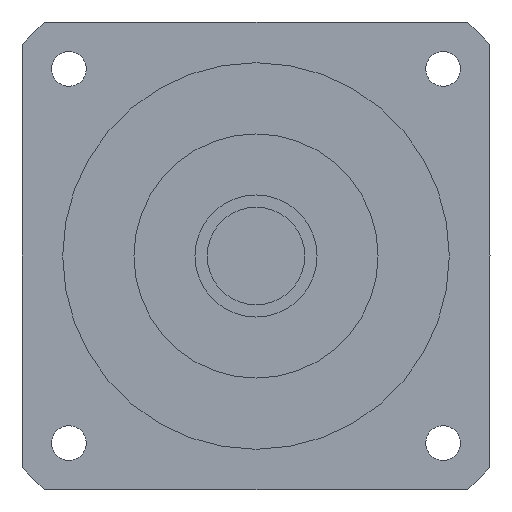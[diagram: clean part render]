
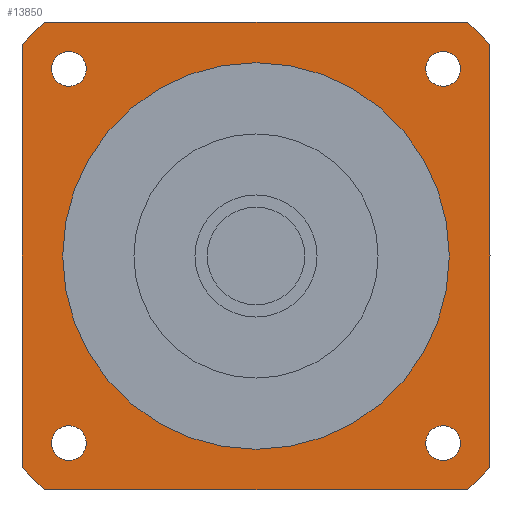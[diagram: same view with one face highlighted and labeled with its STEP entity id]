
A CAD part, left-side view. The second image highlights one B-rep face of the part: STEP entity #13850.
In plain terms, the highlighted planar face has unit normal (-1, 0, 0) as drawn and (0, 0, -1) by its records, which use the part's own axes.
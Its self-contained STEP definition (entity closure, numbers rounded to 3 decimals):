
#11040=CARTESIAN_POINT('',(-51.962,57.5,-65.6));
#11050=VERTEX_POINT('',#11040);
#11080=CARTESIAN_POINT('',(-57.5,57.5,-65.6));
#11090=DIRECTION('',(1.,0.,0.));
#11100=VECTOR('',#11090,1000.);
#11110=LINE('',#11080,#11100);
#11120=CARTESIAN_POINT('',(51.962,57.5,-65.6));
#11130=VERTEX_POINT('',#11120);
#11140=EDGE_CURVE('',#11050,#11130,#11110,.T.);
#11370=CARTESIAN_POINT('',(-57.5,51.962,-65.6));
#11380=VERTEX_POINT('',#11370);
#11410=CARTESIAN_POINT('',(0.,0.,
-65.6));
#11420=DIRECTION('',(0.,0.,-1.));
#11430=DIRECTION('',(1.,0.,0.));
#11440=AXIS2_PLACEMENT_3D('',#11410,#11420,#11430);
#11450=CIRCLE('',#11440,77.5);
#11460=EDGE_CURVE('',#11380,#11050,#11450,.T.);
#11600=CARTESIAN_POINT('',(-51.962,-57.5,-65.6));
#11610=VERTEX_POINT('',#11600);
#11640=CARTESIAN_POINT('',(0.,0.,
-65.6));
#11650=DIRECTION('',(0.,0.,-1.));
#11660=DIRECTION('',(1.,0.,0.));
#11670=AXIS2_PLACEMENT_3D('',#11640,#11650,#11660);
#11680=CIRCLE('',#11670,77.5);
#11690=CARTESIAN_POINT('',(-57.5,-51.962,-65.6));
#11700=VERTEX_POINT('',#11690);
#11710=EDGE_CURVE('',#11610,#11700,#11680,.T.);
#11920=CARTESIAN_POINT('',(51.962,-57.5,-65.6));
#11930=VERTEX_POINT('',#11920);
#11960=CARTESIAN_POINT('',(57.5,-57.5,-65.6));
#11970=DIRECTION('',(-1.,0.,0.));
#11980=VECTOR('',#11970,1000.);
#11990=LINE('',#11960,#11980);
#12000=EDGE_CURVE('',#11930,#11610,#11990,.T.);
#12130=CARTESIAN_POINT('',(-57.5,-57.5,-65.6));
#12140=DIRECTION('',(0.,1.,0.));
#12150=VECTOR('',#12140,1000.);
#12160=LINE('',#12130,#12150);
#12170=EDGE_CURVE('',#11700,#11380,#12160,.T.);
#12300=CARTESIAN_POINT('',(0.,0.,
-65.6));
#12310=DIRECTION('',(0.,0.,-1.));
#12320=DIRECTION('',(1.,0.,0.));
#12330=AXIS2_PLACEMENT_3D('',#12300,#12310,#12320);
#12340=CIRCLE('',#12330,77.5);
#12350=CARTESIAN_POINT('',(57.5,51.962,-65.6));
#12360=VERTEX_POINT('',#12350);
#12370=EDGE_CURVE('',#11130,#12360,#12340,.T.);
#12580=CARTESIAN_POINT('',(57.5,-51.962,-65.6));
#12590=VERTEX_POINT('',#12580);
#12620=CARTESIAN_POINT('',(0.,0.,
-65.6));
#12630=DIRECTION('',(0.,0.,-1.));
#12640=DIRECTION('',(1.,0.,0.));
#12650=AXIS2_PLACEMENT_3D('',#12620,#12630,#12640);
#12660=CIRCLE('',#12650,77.5);
#12670=EDGE_CURVE('',#12590,#11930,#12660,.T.);
#12800=CARTESIAN_POINT('',(57.5,57.5,-65.6));
#12810=DIRECTION('',(0.,-1.,0.));
#12820=VECTOR('',#12810,1000.);
#12830=LINE('',#12800,#12820);
#12840=EDGE_CURVE('',#12360,#12590,#12830,.T.);
#12910=CARTESIAN_POINT('',(57.5,57.5,-65.6));
#12920=DIRECTION('',(0.,0.,-1.));
#12930=DIRECTION('',(1.,0.,0.));
#12940=AXIS2_PLACEMENT_3D('',#12910,#12920,#12930);
#12950=PLANE('',#12940);
#12960=CARTESIAN_POINT('',(-45.962,-45.962,-65.6));
#12970=DIRECTION('',(0.,0.,-1.));
#12980=DIRECTION('',(0.,-1.,0.));
#12990=AXIS2_PLACEMENT_3D('',#12960,#12970,#12980);
#13000=CIRCLE('',#12990,4.25);
#13010=CARTESIAN_POINT('',(-45.962,-50.212,-65.6));
#13020=VERTEX_POINT('',#13010);
#13030=CARTESIAN_POINT('',(-45.962,-41.712,-65.6));
#13040=VERTEX_POINT('',#13030);
#13050=EDGE_CURVE('',#13020,#13040,#13000,.T.);
#13060=ORIENTED_EDGE('',*,*,#13050,.F.);
#13070=EDGE_CURVE('',#13040,#13020,#13000,.T.);
#13080=ORIENTED_EDGE('',*,*,#13070,.F.);
#13090=EDGE_LOOP('',(#13080,#13060));
#13100=FACE_BOUND('',#13090,.T.);
#13110=CARTESIAN_POINT('',(-45.962,45.962,-65.6));
#13120=DIRECTION('',(0.,0.,-1.));
#13130=DIRECTION('',(-1.,0.,0.));
#13140=AXIS2_PLACEMENT_3D('',#13110,#13120,#13130);
#13150=CIRCLE('',#13140,4.25);
#13160=CARTESIAN_POINT('',(-50.212,45.962,-65.6));
#13170=VERTEX_POINT('',#13160);
#13180=CARTESIAN_POINT('',(-41.712,45.962,-65.6));
#13190=VERTEX_POINT('',#13180);
#13200=EDGE_CURVE('',#13170,#13190,#13150,.T.);
#13210=ORIENTED_EDGE('',*,*,#13200,.F.);
#13220=EDGE_CURVE('',#13190,#13170,#13150,.T.);
#13230=ORIENTED_EDGE('',*,*,#13220,.F.);
#13240=EDGE_LOOP('',(#13230,#13210));
#13250=FACE_BOUND('',#13240,.T.);
#13260=CARTESIAN_POINT('',(45.962,45.962,-65.6));
#13270=DIRECTION('',(0.,0.,-1.));
#13280=DIRECTION('',(0.,1.,0.));
#13290=AXIS2_PLACEMENT_3D('',#13260,#13270,#13280);
#13300=CIRCLE('',#13290,4.25);
#13310=CARTESIAN_POINT('',(45.962,50.212,-65.6));
#13320=VERTEX_POINT('',#13310);
#13330=CARTESIAN_POINT('',(45.962,41.712,-65.6));
#13340=VERTEX_POINT('',#13330);
#13350=EDGE_CURVE('',#13320,#13340,#13300,.T.);
#13360=ORIENTED_EDGE('',*,*,#13350,.F.);
#13370=EDGE_CURVE('',#13340,#13320,#13300,.T.);
#13380=ORIENTED_EDGE('',*,*,#13370,.F.);
#13390=EDGE_LOOP('',(#13380,#13360));
#13400=FACE_BOUND('',#13390,.T.);
#13410=CARTESIAN_POINT('',(0.,0.,
-65.6));
#13420=DIRECTION('',(0.,0.,1.));
#13430=DIRECTION('',(0.,1.,0.));
#13440=AXIS2_PLACEMENT_3D('',#13410,#13420,#13430);
#13450=CIRCLE('',#13440,47.5);
#13460=CARTESIAN_POINT('',(-47.5,0.,-65.6));
#13470=VERTEX_POINT('',#13460);
#13480=CARTESIAN_POINT('',(47.5,0.,-65.6));
#13490=VERTEX_POINT('',#13480);
#13500=EDGE_CURVE('',#13470,#13490,#13450,.T.);
#13510=ORIENTED_EDGE('',*,*,#13500,.T.);
#13520=CARTESIAN_POINT('',(0.,47.5,-65.6));
#13530=VERTEX_POINT('',#13520);
#13540=EDGE_CURVE('',#13530,#13470,#13450,.T.);
#13550=ORIENTED_EDGE('',*,*,#13540,.T.);
#13560=EDGE_CURVE('',#13490,#13530,#13450,.T.);
#13570=ORIENTED_EDGE('',*,*,#13560,.T.);
#13580=EDGE_LOOP('',(#13570,#13550,#13510));
#13590=FACE_BOUND('',#13580,.T.);
#13600=ORIENTED_EDGE('',*,*,#11140,.T.);
#13610=ORIENTED_EDGE('',*,*,#11460,.T.);
#13620=ORIENTED_EDGE('',*,*,#12170,.T.);
#13630=ORIENTED_EDGE('',*,*,#11710,.T.);
#13640=ORIENTED_EDGE('',*,*,#12000,.T.);
#13650=ORIENTED_EDGE('',*,*,#12670,.T.);
#13660=ORIENTED_EDGE('',*,*,#12840,.T.);
#13670=ORIENTED_EDGE('',*,*,#12370,.T.);
#13680=EDGE_LOOP('',(#13670,#13660,#13650,#13640,#13630,#13620,#13610,
#13600));
#13690=FACE_OUTER_BOUND('',#13680,.T.);
#13700=CARTESIAN_POINT('',(45.962,-45.962,-65.6));
#13710=DIRECTION('',(0.,0.,-1.));
#13720=DIRECTION('',(1.,0.,0.));
#13730=AXIS2_PLACEMENT_3D('',#13700,#13710,#13720);
#13740=CIRCLE('',#13730,4.25);
#13750=CARTESIAN_POINT('',(50.212,-45.962,-65.6));
#13760=VERTEX_POINT('',#13750);
#13770=CARTESIAN_POINT('',(41.712,-45.962,-65.6));
#13780=VERTEX_POINT('',#13770);
#13790=EDGE_CURVE('',#13760,#13780,#13740,.T.);
#13800=ORIENTED_EDGE('',*,*,#13790,.F.);
#13810=EDGE_CURVE('',#13780,#13760,#13740,.T.);
#13820=ORIENTED_EDGE('',*,*,#13810,.F.);
#13830=EDGE_LOOP('',(#13820,#13800));
#13840=FACE_BOUND('',#13830,.T.);
#13850=ADVANCED_FACE('',(#13100,#13250,#13400,#13590,#13690,#13840),
#12950,.T.);
